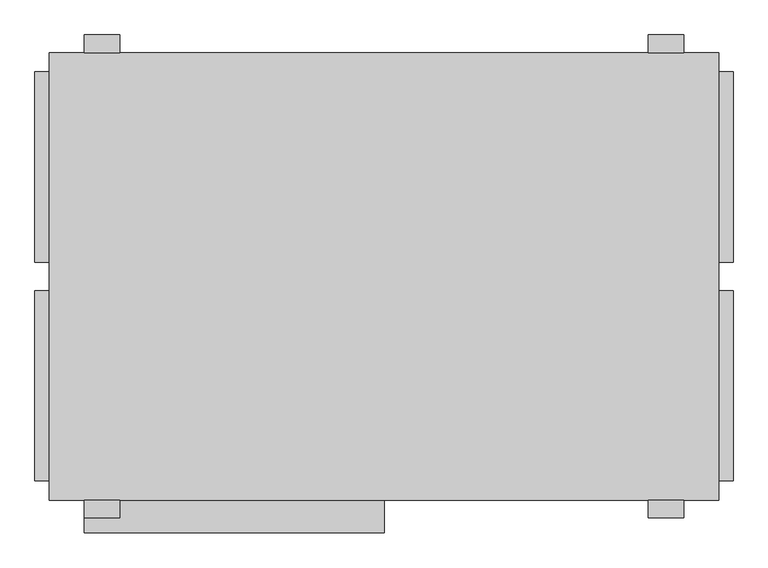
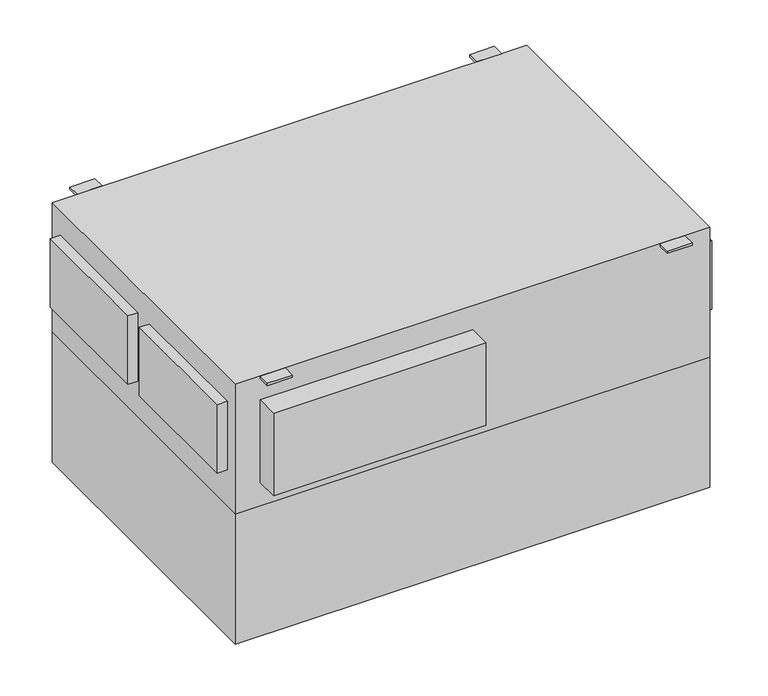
"""IFC4 building model written with IfcOpenShell, lengths in millimetres: proxy geometry, ADSK_КПВУ BRISSAGO CPE_прямоугольная : Brissago CPE 1500."""

from ifc_helpers import new_model, si_unit, frame, origin, place, context, project, spatial, polyline, outline, extrude, faceted_brep, source, transform, mapped, element, save


def mechanical_equipment_a6caf436(model_context):
    return source(origin(), model_context, "Body", "SolidModel", [
        extrude(outline(polyline([(-484.0, 685.0), (-484.0, 635.0), (-584.0, 635.0), (-584.0, 685.0), (-484.0, 685.0)])), frame((0.0, 0.0, 265.0), z_axis=(0.0, 0.0, 1.0), x_axis=(1.0, 0.0, 0.0)), (0.0, 0.0, 1.0), 10.0),
        extrude(outline(polyline([(1016.0, 685.0), (1116.0, 685.0), (1116.0, 635.0), (1016.0, 635.0), (1016.0, 685.0)])), frame((0.0, 0.0, 265.0), z_axis=(0.0, 0.0, 1.0), x_axis=(1.0, 0.0, 0.0)), (0.0, 0.0, 1.0), 10.0),
        extrude(outline(polyline([(-484.0, -685.0), (-584.0, -685.0), (-584.0, -635.0), (-484.0, -635.0), (-484.0, -685.0)])), frame((0.0, 0.0, 265.0), z_axis=(0.0, 0.0, 1.0), x_axis=(1.0, 0.0, 0.0)), (0.0, 0.0, 1.0), 10.0),
        extrude(outline(polyline([(1016.0, -685.0), (1016.0, -635.0), (1116.0, -635.0), (1116.0, -685.0), (1016.0, -685.0)])), frame((0.0, 0.0, 265.0), z_axis=(0.0, 0.0, 1.0), x_axis=(1.0, 0.0, 0.0)), (0.0, 0.0, 1.0), 10.0),
        extrude(outline(polyline([(1216.0, 635.0), (1216.0, -635.0), (-684.0, -635.0), (-684.0, 635.0), (1216.0, 635.0)])), frame((0.0, 0.0, -825.0), z_axis=(0.0, 0.0, 1.0), x_axis=(1.0, 0.0, 0.0)), (0.0, 0.0, 1.0), 550.0),
        faceted_brep([(1216.0, -635.0, 275.0), (1216.0, -635.0, -275.0), (1216.0, 635.0, -275.0), (1216.0, 635.0, 275.0), (1216.0, 40.0, 170.0), (1216.0, 580.0, 170.0), (1216.0, 580.0, -120.0), (1216.0, 40.0, -120.0), (1216.0, -580.0, 170.0), (1216.0, -40.0, 170.0), (1216.0, -40.0, -120.0), (1216.0, -580.0, -120.0), (-684.0, -635.0, 275.0), (-684.0, 635.0, 275.0), (-684.0, 635.0, -275.0), (-684.0, -635.0, -275.0), (-684.0, 580.0, 170.0), (-684.0, 40.0, 170.0), (-684.0, 40.0, -120.0), (-684.0, 580.0, -120.0), (-684.0, -40.0, 170.0), (-684.0, -580.0, 170.0), (-684.0, -580.0, -120.0), (-684.0, -40.0, -120.0), (-584.0, -635.0, 175.0), (266.0, -635.0, 175.0), (266.0, -635.0, -175.0), (-584.0, -635.0, -175.0), (-584.0, -727.0, 175.0), (266.0, -727.0, 175.0), (266.0, -727.0, -175.0), (-584.0, -727.0, -175.0), (-724.0, 40.0, 170.0), (-724.0, 580.0, 170.0), (1256.0, 580.0, 170.0), (1256.0, 40.0, 170.0), (1256.0, -40.0, 170.0), (1256.0, -580.0, 170.0), (-724.0, -40.0, 170.0), (-724.0, -580.0, 170.0), (-724.0, 40.0, -120.0), (-724.0, 580.0, -120.0), (1256.0, 580.0, -120.0), (1256.0, 40.0, -120.0), (1256.0, -40.0, -120.0), (1256.0, -580.0, -120.0), (-724.0, -580.0, -120.0), (-724.0, -40.0, -120.0)], [[[0, 1, 2, 3], [4, 5, 6, 7], [8, 9, 10, 11]], [[12, 13, 14, 15], [16, 17, 18, 19], [20, 21, 22, 23]], [[1, 0, 12, 15], [24, 25, 26, 27]], [[2, 1, 15, 14]], [[3, 2, 14, 13]], [[0, 3, 13, 12]], [[24, 28, 29, 25]], [[26, 30, 31, 27]], [[28, 24, 27, 31]], [[29, 28, 31, 30]], [[25, 29, 30, 26]], [[32, 17, 16, 33]], [[34, 5, 4, 35]], [[36, 9, 8, 37]], [[20, 38, 39, 21]], [[40, 41, 19, 18]], [[42, 43, 7, 6]], [[44, 45, 11, 10]], [[22, 46, 47, 23]], [[17, 32, 40, 18]], [[33, 16, 19, 41]], [[32, 33, 41, 40]], [[5, 34, 42, 6]], [[35, 4, 7, 43]], [[34, 35, 43, 42]], [[9, 36, 44, 10]], [[37, 8, 11, 45]], [[36, 37, 45, 44]], [[38, 20, 23, 47]], [[39, 38, 47, 46]], [[21, 39, 46, 22]]]),
    ])


if __name__ == "__main__":
    model = new_model("IFC4")
    model_context = context("Model", 3, world=origin())
    ifc_project = project(units=[si_unit("LENGTHUNIT", "METRE", prefix="MILLI")], contexts=[model_context])
    site = spatial("IfcSite", under=ifc_project)
    building = spatial("IfcBuilding", under=site)
    placement = place(None, origin())
    mechanical_equipment_shape = mechanical_equipment_a6caf436(model_context)
    element("IfcBuildingElementProxy", 1, Name="ADSK_КПВУ BRISSAGO CPE_прямоугольная : Brissago CPE 1500", ObjectType="ADSK_КПВУ BRISSAGO CPE_прямоугольная : Brissago CPE 1500", at=placement, inside=building, context=model_context, shape_type="MappedRepresentation", body=[
        mapped(mechanical_equipment_shape, transform((0.0, 0.0, 0.0), x_axis=(1.0, 0.0, 0.0), y_axis=(0.0, 1.0, 0.0), z_axis=(0.0, 0.0, 1.0))),
    ])
    save(model, "model.ifc")
